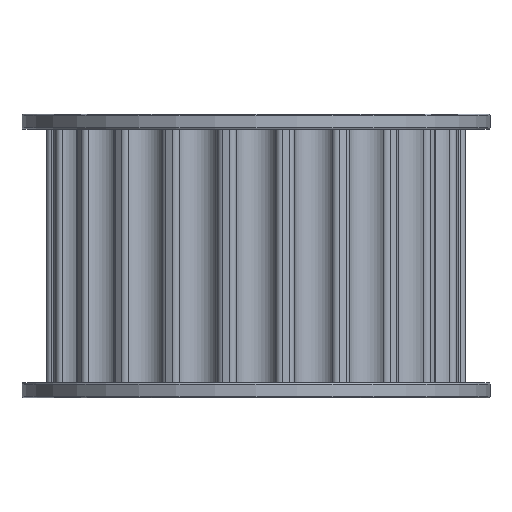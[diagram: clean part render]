
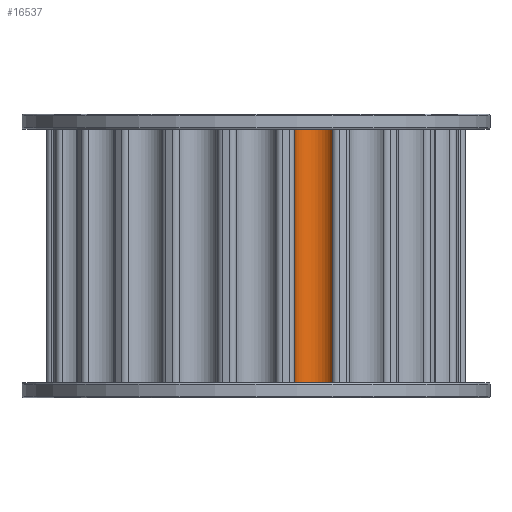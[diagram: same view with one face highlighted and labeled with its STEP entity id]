
A CAD part, front view. The second image highlights one B-rep face of the part: STEP entity #16537.
In plain terms, the highlighted cylindrical face has radius 2.7 mm (diameter 5.4 mm), a partial arc.
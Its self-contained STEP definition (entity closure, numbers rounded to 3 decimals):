
#21 = LINE ( 'NONE', #5594, #2041 ) ;
#191 = CYLINDRICAL_SURFACE ( 'NONE', #17541, 2.7 ) ;
#193 = ORIENTED_EDGE ( 'NONE', *, *, #5590, .T. ) ;
#400 = ORIENTED_EDGE ( 'NONE', *, *, #12628, .F. ) ;
#610 = EDGE_CURVE ( 'NONE', #7505, #13292, #21, .T. ) ;
#842 = DIRECTION ( 'NONE',  ( -1., 0., 0. ) ) ;
#1352 = CARTESIAN_POINT ( 'NONE',  ( 9.983, -24.792, 0. ) ) ;
#1745 = DIRECTION ( 'NONE',  ( 0., 0., -1. ) ) ;
#1809 = ORIENTED_EDGE ( 'NONE', *, *, #610, .T. ) ;
#2041 = VECTOR ( 'NONE', #11168, 1000. ) ;
#2385 = DIRECTION ( 'NONE',  ( 0., 0., 1. ) ) ;
#3013 = CARTESIAN_POINT ( 'NONE',  ( 7.705, -26.242, 0. ) ) ;
#4212 = ORIENTED_EDGE ( 'NONE', *, *, #6204, .F. ) ;
#4346 = VERTEX_POINT ( 'NONE', #18069 ) ;
#4382 = DIRECTION ( 'NONE',  ( 1., 0., 0. ) ) ;
#4967 = CIRCLE ( 'NONE', #9083, 2.7 ) ;
#5492 = FACE_OUTER_BOUND ( 'NONE', #18080, .T. ) ;
#5590 = EDGE_CURVE ( 'NONE', #4346, #15641, #6578, .T. ) ;
#5594 = CARTESIAN_POINT ( 'NONE',  ( 5.005, -26.254, 0. ) ) ;
#6204 = EDGE_CURVE ( 'NONE', #4346, #13292, #4967, .T. ) ;
#6578 = LINE ( 'NONE', #1352, #15761 ) ;
#6788 = CARTESIAN_POINT ( 'NONE',  ( 7.705, -26.242, 1. ) ) ;
#7153 = CARTESIAN_POINT ( 'NONE',  ( 5.005, -26.254, 1. ) ) ;
#7274 = CARTESIAN_POINT ( 'NONE',  ( 5.005, -26.254, 34. ) ) ;
#7505 = VERTEX_POINT ( 'NONE', #7274 ) ;
#8657 = AXIS2_PLACEMENT_3D ( 'NONE', #15737, #1745, #4382 ) ;
#8873 = DIRECTION ( 'NONE',  ( 1., 0., 0. ) ) ;
#9083 = AXIS2_PLACEMENT_3D ( 'NONE', #6788, #2385, #842 ) ;
#9310 = CARTESIAN_POINT ( 'NONE',  ( 9.983, -24.792, 34. ) ) ;
#11168 = DIRECTION ( 'NONE',  ( 0., 0., -1. ) ) ;
#12628 = EDGE_CURVE ( 'NONE', #7505, #15641, #16540, .T. ) ;
#13292 = VERTEX_POINT ( 'NONE', #7153 ) ;
#14349 = DIRECTION ( 'NONE',  ( 0., 0., 1. ) ) ;
#15641 = VERTEX_POINT ( 'NONE', #9310 ) ;
#15737 = CARTESIAN_POINT ( 'NONE',  ( 7.705, -26.242, 34. ) ) ;
#15761 = VECTOR ( 'NONE', #16628, 1000. ) ;
#16537 = ADVANCED_FACE ( 'NONE', ( #5492 ), #191, .F. ) ;
#16540 = CIRCLE ( 'NONE', #8657, 2.7 ) ;
#16628 = DIRECTION ( 'NONE',  ( 0., 0., 1. ) ) ;
#17541 = AXIS2_PLACEMENT_3D ( 'NONE', #3013, #14349, #8873 ) ;
#18069 = CARTESIAN_POINT ( 'NONE',  ( 9.983, -24.792, 1. ) ) ;
#18080 = EDGE_LOOP ( 'NONE', ( #4212, #193, #400, #1809 ) ) ;
